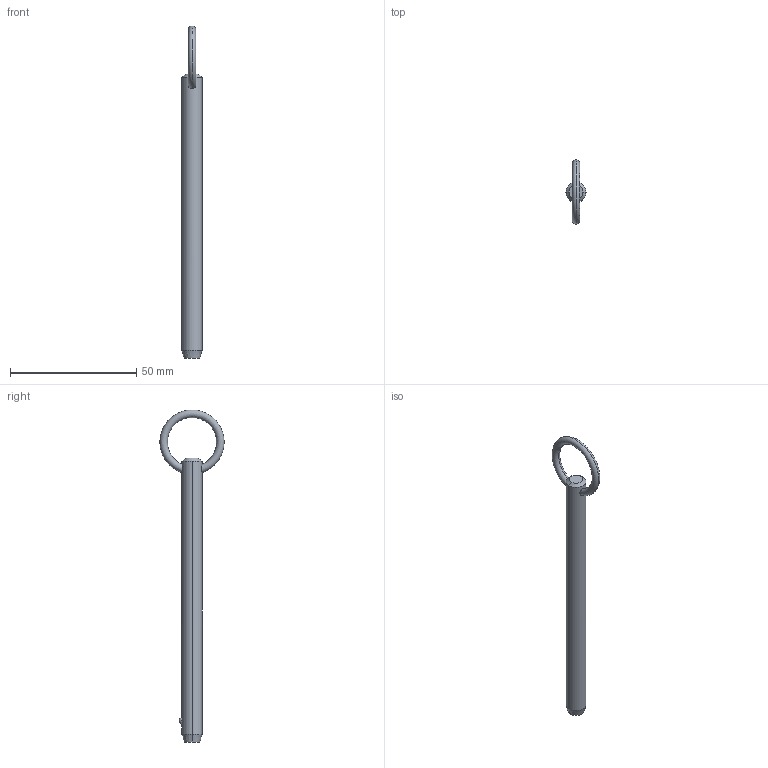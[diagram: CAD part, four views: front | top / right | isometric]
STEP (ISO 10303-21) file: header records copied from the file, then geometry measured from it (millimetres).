
FILE_DESCRIPTION (( 'STEP AP203' ), '1' );
FILE_NAME ('P1250.031-380.step', '2019-07-29T19:54:51', ( '' ), ( '' ), 'SwSTEP 2.0', 'SolidWorks 2017', '' );
FILE_SCHEMA (( 'CONFIG_CONTROL_DESIGN' ));
Length unit declared in the file: millimetre
Products named in the file (1): P1250.031-380
Bounding box: 7.93 x 25.36 x 131.41 mm (x, y, z)
Volume: 5950.4 mm3; surface area: 3434.8 mm2
Topology: 1 solids, 1 shells, 12 faces, 28 edges, 17 vertices
Faces by surface type: cone 4, torus 2, sphere 2, cylinder 2, plane 2
Entity records: 509 total; most frequent: CARTESIAN_POINT 176, DIRECTION 56, ORIENTED_EDGE 48, AXIS2_PLACEMENT_3D 25, EDGE_CURVE 24, VERTEX_POINT 15, EDGE_LOOP 15, FACE_OUTER_BOUND 12
